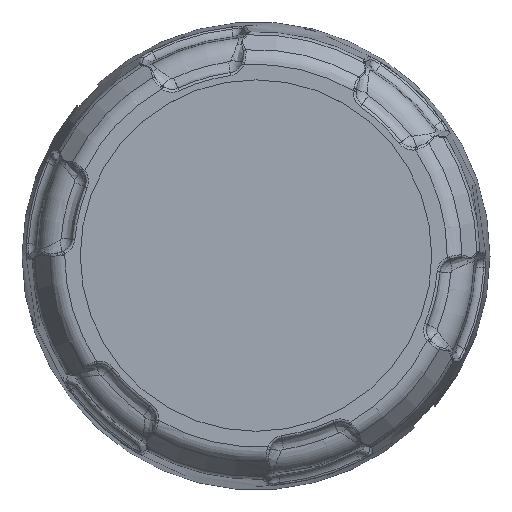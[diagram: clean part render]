
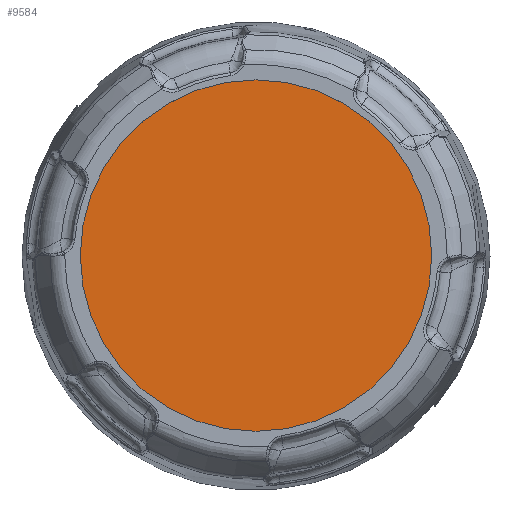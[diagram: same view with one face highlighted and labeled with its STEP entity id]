
A CAD part, top view. The second image highlights one B-rep face of the part: STEP entity #9584.
In plain terms, the highlighted planar face has unit normal (0, 0, 1).
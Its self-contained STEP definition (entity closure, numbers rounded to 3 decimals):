
#54=CARTESIAN_POINT('',(0.,0.,38.425));
#55=DIRECTION('',(0.,0.,1.));
#56=DIRECTION('',(0.,-1.,0.));
#57=AXIS2_PLACEMENT_3D('',#54,#55,#56);
#63=CARTESIAN_POINT('',(0.,0.,38.425));
#64=DIRECTION('',(0.,0.,1.));
#65=DIRECTION('',(0.,1.,0.));
#66=AXIS2_PLACEMENT_3D('',#63,#64,#65);
#9240=CARTESIAN_POINT('',(0.,-30.,38.425));
#9242=VERTEX_POINT('',#9240);
#9244=CARTESIAN_POINT('',(0.,30.,38.425));
#9246=VERTEX_POINT('',#9244);
#9573=CARTESIAN_POINT('',(0.,0.,38.425));
#9574=DIRECTION('',(0.,0.,1.));
#9575=DIRECTION('',(0.,-1.,0.));
#9576=AXIS2_PLACEMENT_3D('',#9573,#9574,#9575);
#9577=PLANE('',#9576);
#9579=ORIENTED_EDGE('',*,*,#9578,.F.);
#9581=ORIENTED_EDGE('',*,*,#9580,.F.);
#9582=EDGE_LOOP('',(#9579,#9581));
#9583=FACE_OUTER_BOUND('',#9582,.F.);
#58=CIRCLE('',#57,30.);
#67=CIRCLE('',#66,30.);
#9578=EDGE_CURVE('',#9242,#9246,#58,.T.);
#9580=EDGE_CURVE('',#9246,#9242,#67,.T.);
#9584=ADVANCED_FACE('',(#9583),#9577,.T.);
